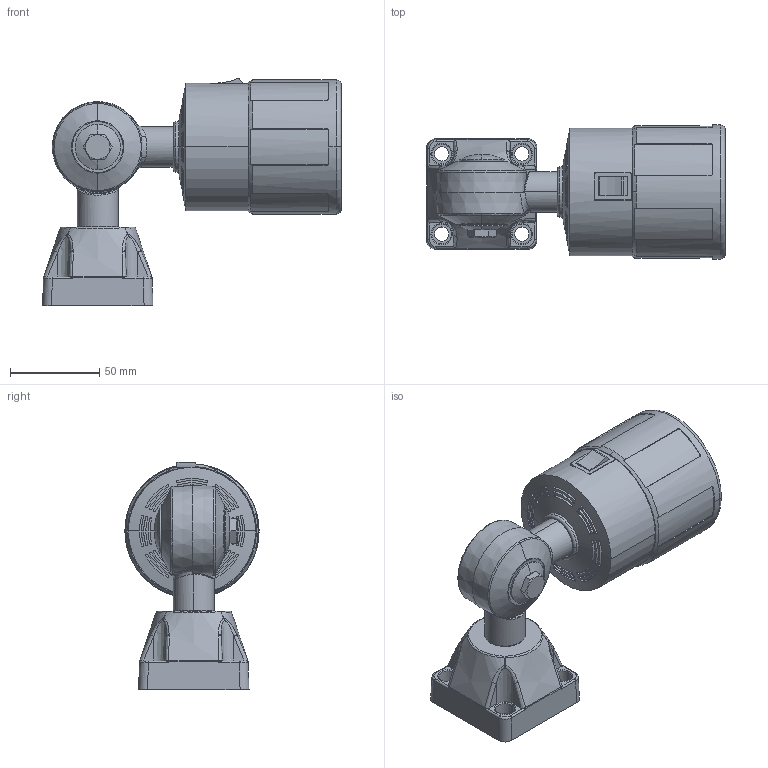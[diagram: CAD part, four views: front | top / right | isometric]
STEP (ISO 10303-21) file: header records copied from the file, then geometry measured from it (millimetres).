
FILE_DESCRIPTION((''),'2;1');
FILE_NAME('THL07-9SS4','2016-09-26T',('ABS'),(''),'PRO/ENGINEER BY PARAMETRIC TECHNOLOGY CORPORATION, 2012360','PRO/ENGINEER BY PARAMETRIC TECHNOLOGY CORPORATION, 2012360','');
FILE_SCHEMA(('CONFIG_CONTROL_DESIGN'));
Length unit declared in the file: inch
Products named in the file (1): THL07-9SS4
Bounding box: 167.8 x 75.3 x 127.47 mm (x, y, z)
Volume: 335677.6 mm3; surface area: 115802.2 mm2
Topology: 1 solids, 5 shells, 710 faces, 1995 edges, 1307 vertices
Faces by surface type: cylinder 259, plane 243, cone 68, bspline 62, torus 46, sphere 32
Entity records: 27288 total; most frequent: CARTESIAN_POINT 9245, ORIENTED_EDGE 3952, DIRECTION 3667, EDGE_CURVE 1976, AXIS2_PLACEMENT_3D 1482, VERTEX_POINT 1307, CIRCLE 834, EDGE_LOOP 781
